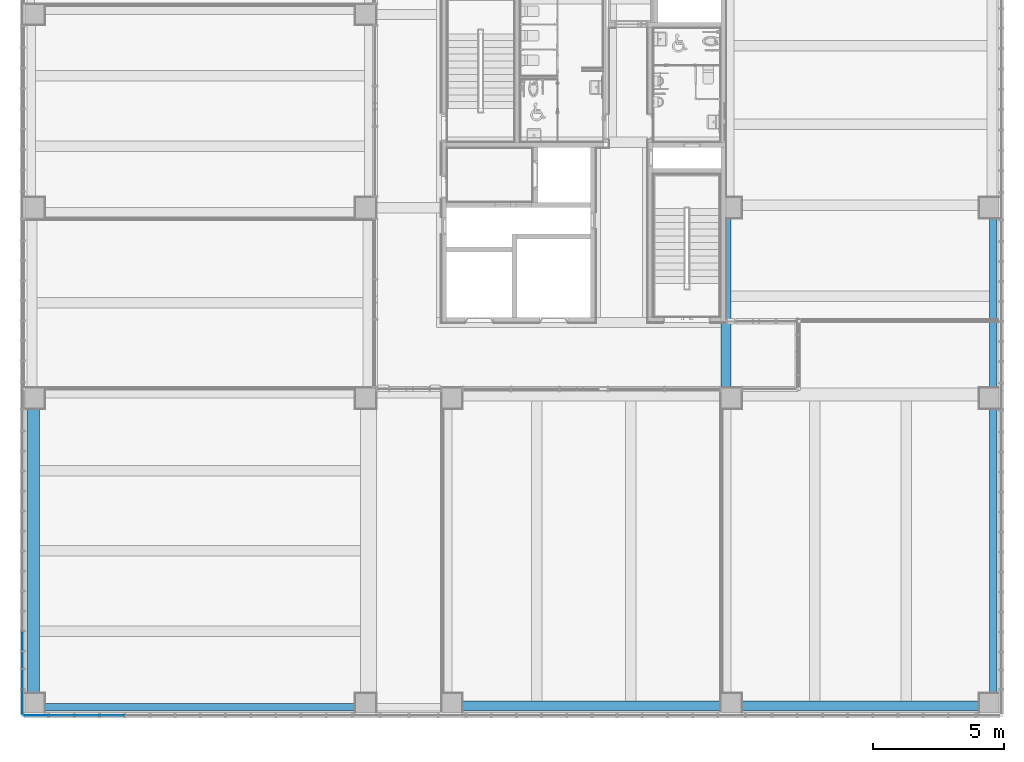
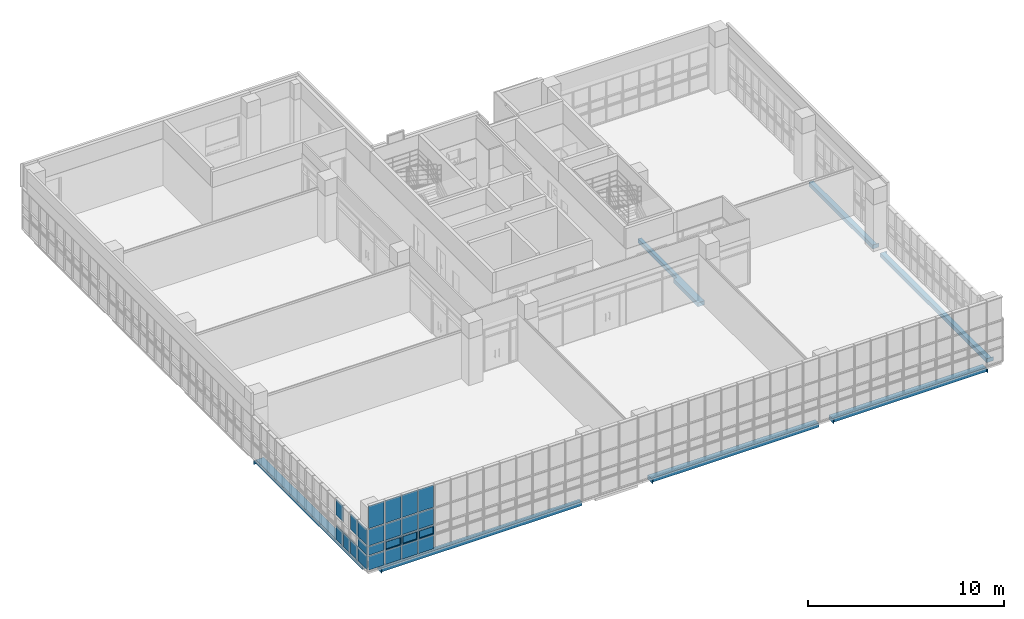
# One storey, part 28 of 76: 24 plates, 7 beams, 2 elements without a shape of their own.
"""IFC2X3 building model written with IfcOpenShell, lengths in millimetres."""

from ifc_helpers import new_model, entity, si_unit, converted_unit, derived_unit, direction, frame, origin, origin_2d_with_axis, place, context, subcontext, project, spatial, polyline, rectangle, outline, extrude, faceted_brep, source, transform, mapped, material, material_list, type_object, type_shapes, element, aggregate, save


model = new_model("IFC2X3")

# Units and contexts
model_context = context("Model", 3, precision=0.01, world=origin(), true_north=direction((6.123031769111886e-17, 1.0)))
body_context = subcontext(model_context, "Body", "Model", "MODEL_VIEW")
ifc_project = project(units=[si_unit("LENGTHUNIT", "METRE", prefix="MILLI"), si_unit("AREAUNIT", "SQUARE_METRE"), si_unit("VOLUMEUNIT", "CUBIC_METRE"), converted_unit("PLANEANGLEUNIT", "DEGREE", entity("IfcRatioMeasure", 0.017453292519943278), si_unit("PLANEANGLEUNIT", "RADIAN"), dimensions=[0, 0, 0, 0, 0, 0, 0]), si_unit("MASSUNIT", "GRAM", prefix="KILO"), derived_unit("MASSDENSITYUNIT", [(si_unit("MASSUNIT", "GRAM", prefix="KILO"), 1), (si_unit("LENGTHUNIT", "METRE"), -3)]), derived_unit("MOMENTOFINERTIAUNIT", [(si_unit("LENGTHUNIT", "METRE"), 4)]), si_unit("TIMEUNIT", "SECOND"), si_unit("FREQUENCYUNIT", "HERTZ"), si_unit("THERMODYNAMICTEMPERATUREUNIT", "DEGREE_CELSIUS"), derived_unit("THERMALTRANSMITTANCEUNIT", [(si_unit("MASSUNIT", "GRAM", prefix="KILO"), 1), (si_unit("THERMODYNAMICTEMPERATUREUNIT", "KELVIN"), -1), (si_unit("TIMEUNIT", "SECOND"), -3)]), derived_unit("VOLUMETRICFLOWRATEUNIT", [(si_unit("LENGTHUNIT", "METRE"), 3), (si_unit("TIMEUNIT", "SECOND"), -1)]), derived_unit("MASSFLOWRATEUNIT", [(si_unit("MASSUNIT", "GRAM", prefix="KILO"), 1), (si_unit("TIMEUNIT", "SECOND"), -1)]), derived_unit("ROTATIONALFREQUENCYUNIT", [(si_unit("TIMEUNIT", "SECOND"), -1)]), si_unit("ELECTRICCURRENTUNIT", "AMPERE"), si_unit("ELECTRICVOLTAGEUNIT", "VOLT"), si_unit("POWERUNIT", "WATT"), si_unit("FORCEUNIT", "NEWTON", prefix="KILO"), si_unit("ILLUMINANCEUNIT", "LUX"), si_unit("LUMINOUSFLUXUNIT", "LUMEN"), si_unit("LUMINOUSINTENSITYUNIT", "CANDELA"), derived_unit("USERDEFINED", [(si_unit("MASSUNIT", "GRAM", prefix="KILO"), -1), (si_unit("LENGTHUNIT", "METRE"), -2), (si_unit("TIMEUNIT", "SECOND"), 3), (si_unit("LUMINOUSFLUXUNIT", "LUMEN"), 1)]), derived_unit("SOUNDPOWERUNIT", [(si_unit("MASSUNIT", "GRAM", prefix="KILO"), 1), (si_unit("LENGTHUNIT", "METRE"), 2), (si_unit("TIMEUNIT", "SECOND"), -3)]), derived_unit("SOUNDPRESSUREUNIT", [(si_unit("MASSUNIT", "GRAM", prefix="KILO"), 1), (si_unit("LENGTHUNIT", "METRE"), -1), (si_unit("TIMEUNIT", "SECOND"), -2)]), derived_unit("LINEARVELOCITYUNIT", [(si_unit("LENGTHUNIT", "METRE"), 1), (si_unit("TIMEUNIT", "SECOND"), -1)]), si_unit("PRESSUREUNIT", "PASCAL"), derived_unit("USERDEFINED", [(si_unit("LENGTHUNIT", "METRE"), -2), (si_unit("MASSUNIT", "GRAM", prefix="KILO"), 1), (si_unit("TIMEUNIT", "SECOND"), -2)]), derived_unit("LINEARFORCEUNIT", [(si_unit("MASSUNIT", "GRAM", prefix="KILO"), 1), (si_unit("LENGTHUNIT", "METRE"), 1), (si_unit("TIMEUNIT", "SECOND"), -2), (si_unit("LENGTHUNIT", "METRE"), -1)]), derived_unit("PLANARFORCEUNIT", [(si_unit("MASSUNIT", "GRAM", prefix="KILO"), 1), (si_unit("LENGTHUNIT", "METRE"), 1), (si_unit("TIMEUNIT", "SECOND"), -2), (si_unit("LENGTHUNIT", "METRE"), -2)])], contexts=[model_context])

# Site, building, storey
site_placement = place(None, frame((-14167.972527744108, -657.2125860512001, 0.0)))
site = spatial("IfcSite", under=ifc_project, at=site_placement, Name="Default", CompositionType="ELEMENT")
building_placement = place(site_placement, origin())
building = spatial("IfcBuilding", under=site, at=building_placement, Name="Sample Building", CompositionType="ELEMENT")
storey_placement = place(building_placement, frame((0.0, 0.0, 9300.0)))
storey = spatial("IfcBuildingStorey", under=building, at=storey_placement, Name="지상 3층", CompositionType="ELEMENT", Elevation=9300.000000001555)

# Beams
ifc_material_1 = material(Name="KBIMS-콘크리트")
beam_type_1 = type_object("IfcBeamType", Name="BM111-철근콘크리트구조 보:BM110-철근 콘크리트구조 보_400 x 400_2-10G7", PredefinedType="NOTDEFINED")
beam_1_placement = place(storey_placement, frame((14867.955105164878, 557.2126041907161, -400.0), z_axis=(0.0, 0.0, 1.0), x_axis=(-1.0, 0.0, 0.0)))
element("IfcBeam", 1, at=beam_1_placement, inside=storey, type_object=beam_type_1, material=ifc_material_1, Name="BM111-철근콘크리트구조 보:BM110-철근 콘크리트구조 보_400 x 400_2-10G7", ObjectType="BM111-철근콘크리트구조 보:BM110-철근 콘크리트구조 보_400 x 400_2-10G7", context=body_context, shape_type="Brep", body=[
    faceted_brep([(0.0, 0.0, 250.0), (0.0, 0.0, 0.0), (-18.017349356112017, 0.0, 0.0), (-18.017349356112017, 0.0, 250.0), (0.0, -400.0, 0.0), (-11900.000036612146, -400.0, 0.0), (-11900.000036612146, -124.99969094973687, 0.0), (-18.017349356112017, -124.99969094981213, 0.0), (0.0, -400.0, 250.0), (-11900.000036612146, -400.0, 250.0), (-11900.000036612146, -124.99969094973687, 250.0), (-18.017349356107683, -124.99969094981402, 250.0)], [[[0, 1, 2, 3]], [[1, 4, 5, 6, 7, 2]], [[5, 4, 8, 9]], [[4, 1, 0, 8]], [[5, 9, 10, 6]], [[9, 8, 0, 3, 11, 10]], [[11, 7, 6, 10]], [[7, 11, 3, 2]]]),
])
beam_type_2 = type_object("IfcBeamType", Name="BM111-철근콘크리트구조 보:BM110-철근 콘크리트구조 보_500 x 400_2-10G9", PredefinedType="NOTDEFINED")
beam_2_placement = place(storey_placement, frame((30867.955114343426, 557.212390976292, -400.0)))
element("IfcBeam", 2, at=beam_2_placement, inside=storey, type_object=beam_type_2, material=ifc_material_1, Name="BM111-철근콘크리트구조 보:BM110-철근 콘크리트구조 보_500 x 400_2-10G9", ObjectType="BM111-철근콘크리트구조 보:BM110-철근 콘크리트구조 보_500 x 400_2-10G9", context=body_context, shape_type="Brep", body=[
    faceted_brep([(0.0, 0.0, 250.0), (0.0, 0.0, 0.0), (18.01734935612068, 0.0, 0.0), (18.01734935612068, 0.0, 250.0), (0.0, 500.0, 0.0), (2650.0087635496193, 500.0, 0.0), (3050.0087635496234, 500.0, 0.0), (6250.008763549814, 500.0, 0.0), (6650.0087635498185, 500.0, 0.0), (9900.000027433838, 500.0, 0.0), (9900.000027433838, 124.99990416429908, 0.0), (18.01734935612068, 124.99990416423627, 0.0), (0.0, 500.0, 250.0), (2650.0087635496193, 500.0, 250.0), (3050.0087635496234, 500.0, 250.0), (6250.008763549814, 500.0, 250.0), (6650.0087635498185, 500.0, 250.0), (9900.000027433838, 500.0, 250.0), (9900.000027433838, 124.99990416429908, 250.0), (18.01734935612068, 124.999904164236, 250.0)], [[[0, 1, 2, 3]], [[1, 4, 5, 6, 7, 8, 9, 10, 11, 2]], [[9, 8, 7, 6, 5, 4, 12, 13, 14, 15, 16, 17]], [[4, 1, 0, 12]], [[9, 17, 18, 10]], [[17, 16, 15, 14, 13, 12, 0, 3, 19, 18]], [[19, 11, 10, 18]], [[11, 19, 3, 2]]]),
])
beam_3_placement = place(storey_placement, frame((41567.95514177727, 557.2123909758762, -400.0), z_axis=(0.0, 0.0, 1.0), x_axis=(-1.0, 0.0, 0.0)))
element("IfcBeam", 3, at=beam_3_placement, inside=storey, type_object=beam_type_2, material=ifc_material_1, Name="BM111-철근콘크리트구조 보:BM110-철근 콘크리트구조 보_500 x 400_2-10G9", ObjectType="BM111-철근콘크리트구조 보:BM110-철근 콘크리트구조 보_500 x 400_2-10G9", context=body_context, shape_type="Brep", body=[
    faceted_brep([(0.0, 0.0, 250.0), (0.0, 0.0, 0.0), (-18.017349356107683, 0.0, 0.0), (-18.017349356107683, 0.0, 250.0), (0.0, -500.0, 0.0), (-2599.991307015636, -500.0, 0.0), (-2999.9913070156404, -500.0, 0.0), (-6099.991307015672, -500.0, 0.0), (-6499.991307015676, -500.0, 0.0), (-9100.008696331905, -500.0, 0.0), (-9100.008696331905, 0.0, 0.0), (-9082.02604568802, 0.0, 0.0), (-9082.02604568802, -124.99990416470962, 0.0), (-18.017349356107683, -124.99990416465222, 0.0), (0.0, -500.0, 250.0), (-2599.991307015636, -500.0, 250.0), (-2999.9913070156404, -500.0, 250.0), (-6099.991307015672, -500.0, 250.0), (-6499.991307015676, -500.0, 250.0), (-9100.008696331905, -500.0, 250.0), (-9100.008696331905, 0.0, 250.0), (-18.017349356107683, -124.99990416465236, 250.0), (-9082.02604568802, -124.9999041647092, 250.0), (-9082.02604568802, 0.0, 250.0)], [[[0, 1, 2, 3]], [[1, 4, 5, 6, 7, 8, 9, 10, 11, 12, 13, 2]], [[9, 8, 7, 6, 5, 4, 14, 15, 16, 17, 18, 19]], [[4, 1, 0, 14]], [[10, 9, 19, 20]], [[19, 18, 17, 16, 15, 14, 0, 3, 21, 22, 23, 20]], [[12, 22, 21, 13]], [[22, 12, 11, 23]], [[13, 21, 3, 2]], [[10, 20, 23, 11]]]),
])
beam_type_3 = type_object("IfcBeamType", Name="BM111-철근콘크리트구조 보:BM110-철근 콘크리트구조 보_600 x 400_2-10G12", PredefinedType="NOTDEFINED")
beam_4_placement = place(storey_placement, frame((14067.955221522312, 1357.2121951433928, -400.0), z_axis=(0.0, 0.0, 1.0), x_axis=(0.0, -1.0, 0.0)))
element("IfcBeam", 4, at=beam_4_placement, inside=storey, type_object=beam_type_3, material=ifc_material_1, Name="BM111-철근콘크리트구조 보:BM110-철근 콘크리트구조 보_600 x 400_2-10G12", ObjectType="BM111-철근콘크리트구조 보:BM110-철근 콘크리트구조 보_600 x 400_2-10G12", context=body_context, shape_type="Brep", body=[
    faceted_brep([(0.0, 600.0, 0.0), (-2175.0002837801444, 600.0, 0.0), (-2575.000283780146, 600.0, 0.0), (-5250.000283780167, 600.0, 0.0), (-5650.0002837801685, 600.0, 0.0), (-8325.000283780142, 600.0, 0.0), (-8725.000283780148, 600.0, 0.0), (-10900.000421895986, 600.0, 0.0), (-10900.000421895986, 600.0, 250.0), (-8725.000283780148, 600.0, 250.0), (-8325.000283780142, 600.0, 250.0), (-5650.0002837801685, 600.0, 250.0), (-5250.000283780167, 600.0, 250.0), (-2575.0002837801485, 600.0, 250.0), (-2175.000283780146, 600.0, 250.0), (0.0, 600.0, 250.0), (-10900.000421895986, 0.0, 0.0), (0.0, 125.01734935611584, 0.0), (-10882.000112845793, 125.01734935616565, 0.0), (-10882.000112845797, 0.0, 0.0), (-10900.000421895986, 0.0, 250.0), (-10882.000112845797, 0.0, 250.0), (0.0, 125.01734935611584, 250.0), (-10882.000112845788, 125.01734935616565, 250.0)], [[[0, 1, 2, 3, 4, 5, 6, 7, 8, 9, 10, 11, 12, 13, 14, 15]], [[16, 7, 6, 5, 4, 3, 2, 1, 0, 17, 18, 19]], [[20, 16, 19, 21]], [[0, 15, 22, 17]], [[7, 16, 20, 8]], [[15, 14, 13, 12, 11, 10, 9, 8, 20, 21, 23, 22]], [[23, 18, 17, 22]], [[18, 23, 21, 19]]]),
])
beam_type_4 = type_object("IfcBeamType", Name="BM111-철근콘크리트구조 보:BM110-철근 콘크리트구조 보_400 x 400_2-10G6", PredefinedType="NOTDEFINED")
beam_5_placement = place(storey_placement, frame((51067.946479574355, 1357.212617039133, -400.0), z_axis=(0.0, 0.0, 1.0), x_axis=(0.0, -1.0, 0.0)))
element("IfcBeam", 5, at=beam_5_placement, inside=storey, type_object=beam_type_4, material=ifc_material_1, Name="BM111-철근콘크리트구조 보:BM110-철근 콘크리트구조 보_400 x 400_2-10G6", ObjectType="BM111-철근콘크리트구조 보:BM110-철근 콘크리트구조 보_400 x 400_2-10G6", context=body_context, shape_type="Brep", body=[
    faceted_brep([(0.0, 400.0, 250.0), (0.0, 400.0, 0.0), (-17.999690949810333, 400.0, 0.0), (-17.999690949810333, 400.0, 250.0), (0.0, 0.0, 0.0), (-10900.000421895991, 0.0, 0.0), (-10900.000421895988, 400.0, 0.0), (-10882.000112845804, 400.0, 0.0), (-10882.000112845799, 275.0173493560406, 0.0), (-17.999690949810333, 275.0173493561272, 0.0), (0.0, 0.0, 250.0), (-10900.000421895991, 0.0, 250.0), (-10900.000421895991, 400.0, 250.0), (-17.999690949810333, 275.01734935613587, 250.0), (-10882.000112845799, 275.01734935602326, 250.0), (-10882.000112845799, 400.0, 250.0)], [[[0, 1, 2, 3]], [[1, 4, 5, 6, 7, 8, 9, 2]], [[5, 4, 10, 11]], [[4, 1, 0, 10]], [[6, 5, 11, 12]], [[11, 10, 0, 3, 13, 14, 15, 12]], [[8, 14, 13, 9]], [[9, 13, 3, 2]], [[6, 12, 15, 7]], [[14, 8, 7, 15]]]),
])
beam_type_5 = type_object("IfcBeamType", Name="BM111-철근콘크리트구조 보:BM110-철근 콘크리트구조 보_400 x 400_2-10G4", PredefinedType="BEAM", material=ifc_material_1)
beam_6_placement = place(storey_placement, frame((40767.95514177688, 13057.212604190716, -400.0), z_axis=(0.0, 0.0, 1.0), x_axis=(0.0, 1.0, 0.0)))
element("IfcBeam", 6, at=beam_6_placement, inside=storey, type_object=beam_type_5, material=ifc_material_1, Name="BM111-철근콘크리트구조 보:BM110-철근 콘크리트구조 보_400 x 400_2-10G4", ObjectType="BM111-철근콘크리트구조 보:BM110-철근 콘크리트구조 보_400 x 400_2-10G4", context=body_context, shape_type="Brep", body=[
    faceted_brep([(1.2849108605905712e-05, -400.0, 0.0), (3299.999848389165, -400.0, 0.0), (3699.999848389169, -400.0, 0.0), (6500.0, -400.0, 0.0), (6500.0, -400.0, 250.0), (3699.999848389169, -400.0, 250.0), (3299.999848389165, -400.0, 250.0), (1.2849108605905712e-05, -400.0, 250.0), (0.0, 0.0, 0.0), (2300.0, 0.0, 0.0), (2499.9996909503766, 0.0, 0.0), (2499.9996909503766, -200.00865637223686, 0.0), (6500.0, -200.00865637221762, 0.0), (0.0, 0.0, 250.0), (2300.0, 0.0, 250.0), (2499.9996909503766, 0.0, 250.0), (6500.0, -200.00865637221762, 250.0), (0.0, -400.0, 250.0), (2499.9996909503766, -200.00865637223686, 250.0)], [[[0, 1, 2, 3, 4, 5, 6, 7]], [[3, 2, 1, 0, 8, 9, 10, 11, 12]], [[8, 13, 14, 15, 10, 9]], [[4, 3, 12, 16]], [[8, 0, 17, 13]], [[7, 6, 5, 4, 16, 18, 15, 14, 13]], [[11, 18, 16, 12]], [[18, 11, 10, 15]]]),
])
beam_7_placement = place(storey_placement, frame((51067.955221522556, 13057.213038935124, -400.0), z_axis=(0.0, 0.0, 1.0), x_axis=(0.0, 1.0, 0.0)))
element("IfcBeam", 7, at=beam_7_placement, inside=storey, type_object=beam_type_5, material=ifc_material_1, Name="BM111-철근콘크리트구조 보:BM110-철근 콘크리트구조 보_400 x 400_2-10G4", ObjectType="BM111-철근콘크리트구조 보:BM110-철근 콘크리트구조 보_400 x 400_2-10G4", context=body_context, shape_type="Brep", body=[
    faceted_brep([(0.0, -400.0, 250.0), (0.0, -400.0, 0.0), (17.9996909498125, -400.0, 0.0), (17.9996909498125, -400.0, 250.0), (0.0, 0.0, 0.0), (3299.9994136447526, 0.0, 0.0), (3699.999413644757, 0.0, 0.0), (6499.999578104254, 0.0, 0.0), (6499.999578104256, -275.00860740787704, 0.0), (17.9996909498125, -275.00860740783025, 0.0), (0.0, 0.0, 250.0), (3299.9994136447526, 0.0, 250.0), (3699.999413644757, 0.0, 250.0), (6499.999578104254, 0.0, 250.0), (6499.999578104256, -275.00860740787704, 250.0), (17.9996909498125, -275.0086074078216, 250.0)], [[[0, 1, 2, 3]], [[1, 4, 5, 6, 7, 8, 9, 2]], [[7, 6, 5, 4, 10, 11, 12, 13]], [[4, 1, 0, 10]], [[7, 13, 14, 8]], [[13, 12, 11, 10, 0, 3, 15, 14]], [[15, 9, 8, 14]], [[9, 15, 3, 2]]]),
])

# Curtain wall, plates
curtain_wall_type = type_object("IfcCurtainWallType", Name="커튼월:CW112-스테인리스 스틸 커튼월", PredefinedType="NOTDEFINED")
curtain_wall_1_placement = place(storey_placement, frame((0.0, 0.0, -9300.0)))
curtain_wall_1 = element("IfcCurtainWall", 8, at=curtain_wall_1_placement, inside=storey, type_object=curtain_wall_type, Name="커튼월:CW112-스테인리스 스틸 커튼월", ObjectType="커튼월:CW112-스테인리스 스틸 커튼월")
ifc_material_2 = material(Name="KBIMS-로이유리(코팅)")
plate_type_1 = type_object("IfcPlateType", Name="CW300-THK24.Low-e coating glass:CW300-THK24.Low-e coating glass", PredefinedType="CURTAIN_PANEL", material=ifc_material_2)
shared_shape_1 = source(origin(), body_context, "Body", "SweptSolid", [
    extrude(rectangle(XDim=715.9999999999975, YDim=24.000000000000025, at=origin_2d_with_axis()), frame((0.0, 0.0, 0.0), z_axis=(0.0, 0.0, 1.0), x_axis=(-1.0, 0.0, 0.0)), (0.0, 0.0, 1.0), 875.0000000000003),
])
type_shapes(plate_type_1, [shared_shape_1])
plate_1_placement = place(curtain_wall_1_placement, frame((14018.587904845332, 3352.817707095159, 9430.0), z_axis=(0.0, 0.0, 1.0), x_axis=(0.0, -1.0, 0.0)))
plate_1 = element("IfcPlate", 9, at=plate_1_placement, type_object=plate_type_1, material=ifc_material_2, Name="CW300-THK24.Low-e coating glass:CW300-THK24.Low-e coating glass", ObjectType="CW300-THK24.Low-e coating glass:CW300-THK24.Low-e coating glass", context=body_context, shape_type="MappedRepresentation", body=[
    mapped(shared_shape_1, transform((0.0, 0.0, 0.0), scale=1.0)),
])
plate_type_2 = type_object("IfcPlateType", Name="CW300-THK24.Low-e coating glass:CW300-THK24.Low-e coating glass", PredefinedType="CURTAIN_PANEL", material=ifc_material_2)
shared_shape_2 = source(origin(), body_context, "Body", "SweptSolid", [
    extrude(rectangle(XDim=642.0000000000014, YDim=24.000000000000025, at=origin_2d_with_axis()), frame((0.0, 0.0, 0.0), z_axis=(0.0, 0.0, 1.0), x_axis=(-1.0, 0.0, 0.0)), (0.0, 0.0, 1.0), 875.0000000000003),
])
type_shapes(plate_type_2, [shared_shape_2])
plate_2_placement = place(curtain_wall_1_placement, frame((14018.587904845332, 2623.81770709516, 9430.0), z_axis=(0.0, 0.0, 1.0), x_axis=(0.0, -1.0, 0.0)))
plate_2 = element("IfcPlate", 10, at=plate_2_placement, type_object=plate_type_2, material=ifc_material_2, Name="CW300-THK24.Low-e coating glass:CW300-THK24.Low-e coating glass", ObjectType="CW300-THK24.Low-e coating glass:CW300-THK24.Low-e coating glass", context=body_context, shape_type="MappedRepresentation", body=[
    mapped(shared_shape_2, transform((0.0, 0.0, 0.0), scale=1.0)),
])
plate_type_3 = type_object("IfcPlateType", Name="CW300-THK24.Low-e coating glass:CW300-THK24.Low-e coating glass", PredefinedType="CURTAIN_PANEL", material=ifc_material_2)
shared_shape_3 = source(origin(), body_context, "Body", "SweptSolid", [
    extrude(rectangle(XDim=733.0000000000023, YDim=24.000000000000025, at=origin_2d_with_axis()), frame((0.0, 0.0, 0.0), z_axis=(0.0, 0.0, 1.0), x_axis=(-1.0, 0.0, 0.0)), (0.0, 0.0, 1.0), 875.0000000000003),
])
type_shapes(plate_type_3, [shared_shape_3])
plate_3_placement = place(curtain_wall_1_placement, frame((14018.587904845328, 1886.3177070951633, 9430.0), z_axis=(0.0, 0.0, 1.0), x_axis=(0.0, -1.0, 0.0)))
plate_3 = element("IfcPlate", 11, at=plate_3_placement, type_object=plate_type_3, material=ifc_material_2, Name="CW300-THK24.Low-e coating glass:CW300-THK24.Low-e coating glass", ObjectType="CW300-THK24.Low-e coating glass:CW300-THK24.Low-e coating glass", context=body_context, shape_type="MappedRepresentation", body=[
    mapped(shared_shape_3, transform((0.0, 0.0, 0.0), scale=1.0)),
])
plate_type_4 = type_object("IfcPlateType", Name="CW300-THK24.Low-e coating glass:CW300-THK24.Low-e coating glass", PredefinedType="CURTAIN_PANEL", material=ifc_material_2)
shared_shape_4 = source(origin(), body_context, "Body", "SweptSolid", [
    extrude(rectangle(XDim=912.3445148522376, YDim=24.000000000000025, at=origin_2d_with_axis()), frame((0.0, 0.0, 0.0), z_axis=(0.0, 0.0, 1.0), x_axis=(-1.0, 0.0, 0.0)), (0.0, 0.0, 1.0), 875.0000000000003),
])
type_shapes(plate_type_4, [shared_shape_4])
plate_4_placement = place(curtain_wall_1_placement, frame((14018.587904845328, 1013.6454496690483, 9430.0), z_axis=(0.0, 0.0, 1.0), x_axis=(0.0, -1.0, 0.0)))
plate_4 = element("IfcPlate", 12, at=plate_4_placement, type_object=plate_type_4, material=ifc_material_2, Name="CW300-THK24.Low-e coating glass:CW300-THK24.Low-e coating glass", ObjectType="CW300-THK24.Low-e coating glass:CW300-THK24.Low-e coating glass", context=body_context, shape_type="MappedRepresentation", body=[
    mapped(shared_shape_4, transform((0.0, 0.0, 0.0), scale=1.0)),
])
plate_type_5 = type_object("IfcPlateType", Name="CW300-THK24.Low-e coating glass:CW300-THK24.Low-e coating glass", PredefinedType="CURTAIN_PANEL", material=ifc_material_2)
shared_shape_5 = source(origin(), body_context, "Body", "SweptSolid", [
    extrude(rectangle(XDim=912.3445148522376, YDim=24.000000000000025, at=origin_2d_with_axis()), frame((0.0, 0.0, 0.0), z_axis=(0.0, 0.0, 1.0), x_axis=(-1.0, 0.0, 0.0)), (0.0, 0.0, 1.0), 549.9999999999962),
])
type_shapes(plate_type_5, [shared_shape_5])
plate_5_placement = place(curtain_wall_1_placement, frame((14018.587904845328, 1013.6454496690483, 10355.0), z_axis=(0.0, 0.0, 1.0), x_axis=(0.0, -1.0, 0.0)))
plate_5 = element("IfcPlate", 13, at=plate_5_placement, type_object=plate_type_5, material=ifc_material_2, Name="CW300-THK24.Low-e coating glass:CW300-THK24.Low-e coating glass", ObjectType="CW300-THK24.Low-e coating glass:CW300-THK24.Low-e coating glass", context=body_context, shape_type="MappedRepresentation", body=[
    mapped(shared_shape_5, transform((0.0, 0.0, 0.0), scale=1.0)),
])
plate_type_6 = type_object("IfcPlateType", Name="CW300-THK24.Low-e coating glass:CW300-THK24.Low-e coating glass", PredefinedType="CURTAIN_PANEL", material=ifc_material_2)
shared_shape_6 = source(origin(), body_context, "Body", "SweptSolid", [
    extrude(rectangle(XDim=715.9999999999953, YDim=24.000000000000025, at=origin_2d_with_axis()), frame((0.0, 0.0, 0.0), z_axis=(0.0, 0.0, 1.0), x_axis=(-1.0, 0.0, 0.0)), (0.0, 0.0, 1.0), 995.0000000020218),
])
type_shapes(plate_type_6, [shared_shape_6])
plate_6_placement = place(curtain_wall_1_placement, frame((14018.587904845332, 3352.817707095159, 10955.0), z_axis=(0.0, 0.0, 1.0), x_axis=(0.0, -1.0, 0.0)))
plate_6 = element("IfcPlate", 14, at=plate_6_placement, type_object=plate_type_6, material=ifc_material_2, Name="CW300-THK24.Low-e coating glass:CW300-THK24.Low-e coating glass", ObjectType="CW300-THK24.Low-e coating glass:CW300-THK24.Low-e coating glass", context=body_context, shape_type="MappedRepresentation", body=[
    mapped(shared_shape_6, transform((0.0, 0.0, 0.0), scale=1.0)),
])
plate_type_7 = type_object("IfcPlateType", Name="CW300-THK24.Low-e coating glass:CW300-THK24.Low-e coating glass", PredefinedType="CURTAIN_PANEL", material=ifc_material_2)
shared_shape_7 = source(origin(), body_context, "Body", "SweptSolid", [
    extrude(rectangle(XDim=732.999999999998, YDim=24.000000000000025, at=origin_2d_with_axis()), frame((0.0, 0.0, 0.0), z_axis=(0.0, 0.0, 1.0), x_axis=(-1.0, 0.0, 0.0)), (0.0, 0.0, 1.0), 995.0000000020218),
])
type_shapes(plate_type_7, [shared_shape_7])
plate_7_placement = place(curtain_wall_1_placement, frame((14018.587904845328, 1886.3177070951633, 10955.0), z_axis=(0.0, 0.0, 1.0), x_axis=(0.0, -1.0, 0.0)))
plate_7 = element("IfcPlate", 15, at=plate_7_placement, type_object=plate_type_7, material=ifc_material_2, Name="CW300-THK24.Low-e coating glass:CW300-THK24.Low-e coating glass", ObjectType="CW300-THK24.Low-e coating glass:CW300-THK24.Low-e coating glass", context=body_context, shape_type="MappedRepresentation", body=[
    mapped(shared_shape_7, transform((0.0, 0.0, 0.0), scale=1.0)),
])
plate_type_8 = type_object("IfcPlateType", Name="CW300-THK24.Low-e coating glass:CW300-THK24.Low-e coating glass", PredefinedType="CURTAIN_PANEL", material=ifc_material_2)
shared_shape_8 = source(origin(), body_context, "Body", "SweptSolid", [
    extrude(rectangle(XDim=912.3445148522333, YDim=24.000000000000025, at=origin_2d_with_axis()), frame((0.0, 0.0, 0.0), z_axis=(0.0, 0.0, 1.0), x_axis=(-1.0, 0.0, 0.0)), (0.0, 0.0, 1.0), 995.0000000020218),
])
type_shapes(plate_type_8, [shared_shape_8])
plate_8_placement = place(curtain_wall_1_placement, frame((14018.587904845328, 1013.6454496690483, 10955.0), z_axis=(0.0, 0.0, 1.0), x_axis=(0.0, -1.0, 0.0)))
plate_8 = element("IfcPlate", 16, at=plate_8_placement, type_object=plate_type_8, material=ifc_material_2, Name="CW300-THK24.Low-e coating glass:CW300-THK24.Low-e coating glass", ObjectType="CW300-THK24.Low-e coating glass:CW300-THK24.Low-e coating glass", context=body_context, shape_type="MappedRepresentation", body=[
    mapped(shared_shape_8, transform((0.0, 0.0, 0.0), scale=1.0)),
])
aggregate(curtain_wall_1, [plate_1, plate_2, plate_3, plate_4, plate_5, plate_6, plate_7, plate_8])

curtain_wall_2_placement = place(storey_placement, frame((0.0, 0.0, -9300.0)))
curtain_wall_2 = element("IfcCurtainWall", 17, at=curtain_wall_2_placement, inside=storey, type_object=curtain_wall_type, Name="커튼월:CW112-스테인리스 스틸 커튼월", ObjectType="커튼월:CW112-스테인리스 스틸 커튼월")
plate_type_9 = type_object("IfcPlateType", Name="CW300-THK24.Low-e coating glass:CW300-THK24.Low-e coating glass", PredefinedType="CURTAIN_PANEL", material=ifc_material_2)
shared_shape_9 = source(origin(), body_context, "Body", "SweptSolid", [
    extrude(rectangle(XDim=912.1922411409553, YDim=24.000000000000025, at=origin_2d_with_axis()), frame((0.0, 0.0, 0.0), z_axis=(0.0, 0.0, 1.0), x_axis=(-1.0, 0.0, 0.0)), (0.0, 0.0, 1.0), 875.0000000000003),
])
type_shapes(plate_type_9, [shared_shape_9])
plate_9_placement = place(curtain_wall_2_placement, frame((14524.059949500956, 507.2122951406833, 9430.0)))
plate_9 = element("IfcPlate", 18, at=plate_9_placement, type_object=plate_type_9, material=ifc_material_2, Name="CW300-THK24.Low-e coating glass:CW300-THK24.Low-e coating glass", ObjectType="CW300-THK24.Low-e coating glass:CW300-THK24.Low-e coating glass", context=body_context, shape_type="MappedRepresentation", body=[
    mapped(shared_shape_9, transform((0.0, 0.0, 0.0), scale=1.0)),
])
plate_type_10 = type_object("IfcPlateType", Name="CW300-THK24.Low-e coating glass:CW300-THK24.Low-e coating glass", PredefinedType="CURTAIN_PANEL", material=ifc_material_2)
shared_shape_10 = source(origin(), body_context, "Body", "SweptSolid", [
    extrude(rectangle(XDim=944.9999999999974, YDim=24.000000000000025, at=origin_2d_with_axis()), frame((0.0, 0.0, 0.0), z_axis=(0.0, 0.0, 1.0), x_axis=(-1.0, 0.0, 0.0)), (0.0, 0.0, 1.0), 875.0000000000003),
])
type_shapes(plate_type_10, [shared_shape_10])
plate_10_placement = place(curtain_wall_2_placement, frame((15502.656070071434, 507.2122951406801, 9430.0)))
plate_10 = element("IfcPlate", 19, at=plate_10_placement, type_object=plate_type_10, material=ifc_material_2, Name="CW300-THK24.Low-e coating glass:CW300-THK24.Low-e coating glass", ObjectType="CW300-THK24.Low-e coating glass:CW300-THK24.Low-e coating glass", context=body_context, shape_type="MappedRepresentation", body=[
    mapped(shared_shape_10, transform((0.0, 0.0, 0.0), scale=1.0)),
])
plate_type_11 = type_object("IfcPlateType", Name="CW300-THK24.Low-e coating glass:CW300-THK24.Low-e coating glass", PredefinedType="CURTAIN_PANEL", material=ifc_material_2)
shared_shape_11 = source(origin(), body_context, "Body", "SweptSolid", [
    extrude(rectangle(XDim=914.9999999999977, YDim=24.000000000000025, at=origin_2d_with_axis()), frame((0.0, 0.0, 0.0), z_axis=(0.0, 0.0, 1.0), x_axis=(-1.0, 0.0, 0.0)), (0.0, 0.0, 1.0), 875.0000000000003),
])
type_shapes(plate_type_11, [shared_shape_11])
plate_11_placement = place(curtain_wall_2_placement, frame((16482.656070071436, 507.212295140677, 9430.0)))
plate_11 = element("IfcPlate", 20, at=plate_11_placement, type_object=plate_type_11, material=ifc_material_2, Name="CW300-THK24.Low-e coating glass:CW300-THK24.Low-e coating glass", ObjectType="CW300-THK24.Low-e coating glass:CW300-THK24.Low-e coating glass", context=body_context, shape_type="MappedRepresentation", body=[
    mapped(shared_shape_11, transform((0.0, 0.0, 0.0), scale=1.0)),
])
plate_12_placement = place(curtain_wall_2_placement, frame((17447.656070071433, 507.2122951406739, 9430.0)))
plate_12 = element("IfcPlate", 21, at=plate_12_placement, type_object=plate_type_11, material=ifc_material_2, Name="CW300-THK24.Low-e coating glass:CW300-THK24.Low-e coating glass", ObjectType="CW300-THK24.Low-e coating glass:CW300-THK24.Low-e coating glass", context=body_context, shape_type="MappedRepresentation", body=[
    mapped(shared_shape_11, transform((0.0, 0.0, 0.0), scale=1.0)),
])
plate_type_12 = type_object("IfcPlateType", Name="CW300-THK24.Low-e coating glass:CW300-THK24.Low-e coating glass", PredefinedType="CURTAIN_PANEL", material=ifc_material_2)
shared_shape_12 = source(origin(), body_context, "Body", "SweptSolid", [
    extrude(rectangle(XDim=912.1922411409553, YDim=24.000000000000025, at=origin_2d_with_axis()), frame((0.0, 0.0, 0.0), z_axis=(0.0, 0.0, 1.0), x_axis=(-1.0, 0.0, 0.0)), (0.0, 0.0, 1.0), 549.9999999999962),
])
type_shapes(plate_type_12, [shared_shape_12])
plate_13_placement = place(curtain_wall_2_placement, frame((14524.059949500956, 507.2122951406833, 10355.0)))
plate_13 = element("IfcPlate", 22, at=plate_13_placement, type_object=plate_type_12, material=ifc_material_2, Name="CW300-THK24.Low-e coating glass:CW300-THK24.Low-e coating glass", ObjectType="CW300-THK24.Low-e coating glass:CW300-THK24.Low-e coating glass", context=body_context, shape_type="MappedRepresentation", body=[
    mapped(shared_shape_12, transform((0.0, 0.0, 0.0), scale=1.0)),
])
ifc_material_3 = material(Name="KBIMS-유리")
ifc_material_4 = material(Name="KBIMS-알루미늄")
ifc_material_list_1 = material_list([ifc_material_3, ifc_material_4])
ifc_material_list_2 = material_list([ifc_material_3, ifc_material_4])
plate_type_13 = type_object("IfcPlateType", Name="CW410-프로젝트 창:CW410-프로젝트 창 (하부개폐)", PredefinedType="CURTAIN_PANEL", material=ifc_material_list_2)
shared_shape_13 = source(origin(), body_context, "Body", "SweptSolid", [
    extrude(rectangle(XDim=845.0000000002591, YDim=23.999999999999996, at=origin_2d_with_axis()), frame((0.0, -0.04999999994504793, 50.0), z_axis=(0.0, 0.0, 1.0), x_axis=(-1.0, 0.0, 0.0)), (0.0, 0.0, 1.0), 450.0000000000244),
    extrude(outline(polyline([(-472.4999999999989, -275.0), (472.4999999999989, -275.0), (472.4999999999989, 275.0), (-472.4999999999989, 275.0), (-472.4999999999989, -275.0)]), holes=[polyline([(-422.50000000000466, -225.0), (-422.5000000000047, 225.0), (422.5000000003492, 225.0), (422.50000000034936, -225.0), (-422.50000000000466, -225.0)])]), frame((0.0, -50.04999999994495, 275.0), z_axis=(0.0, 1.0, 0.0), x_axis=(1.0, 0.0, 0.0)), (0.0, 0.0, 1.0), 99.99999999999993),
])
type_shapes(plate_type_13, [shared_shape_13])
plate_14_placement = place(curtain_wall_2_placement, frame((15502.656070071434, 507.2122951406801, 10355.0)))
plate_14 = element("IfcPlate", 23, at=plate_14_placement, type_object=plate_type_13, material=ifc_material_list_1, Name="CW410-프로젝트 창:CW410-프로젝트 창 (하부개폐)", ObjectType="CW410-프로젝트 창:CW410-프로젝트 창 (하부개폐)", context=body_context, shape_type="MappedRepresentation", body=[
    mapped(shared_shape_13, transform((0.0, 0.0, 0.0), scale=1.0)),
])
ifc_material_list_3 = material_list([ifc_material_3, ifc_material_4])
ifc_material_list_4 = material_list([ifc_material_3, ifc_material_4])
plate_type_14 = type_object("IfcPlateType", Name="CW410-프로젝트 창:CW410-프로젝트 창 (하부개폐)", PredefinedType="CURTAIN_PANEL", material=ifc_material_list_4)
shared_shape_14 = source(origin(), body_context, "Body", "SweptSolid", [
    extrude(rectangle(XDim=815.0000000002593, YDim=23.999999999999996, at=origin_2d_with_axis()), frame((0.0, -0.04999999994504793, 50.0), z_axis=(0.0, 0.0, 1.0), x_axis=(-1.0, 0.0, 0.0)), (0.0, 0.0, 1.0), 450.0000000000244),
    extrude(outline(polyline([(-457.4999999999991, -275.0), (457.4999999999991, -275.0), (457.4999999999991, 275.0), (-457.4999999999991, 275.0), (-457.4999999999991, -275.0)]), holes=[polyline([(-407.50000000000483, -225.0), (-407.5000000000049, 225.0), (407.50000000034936, 225.0), (407.50000000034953, -225.0), (-407.50000000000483, -225.0)])]), frame((0.0, -50.04999999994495, 275.0), z_axis=(0.0, 1.0, 0.0), x_axis=(1.0, 0.0, 0.0)), (0.0, 0.0, 1.0), 99.99999999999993),
])
type_shapes(plate_type_14, [shared_shape_14])
plate_15_placement = place(curtain_wall_2_placement, frame((16482.656070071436, 507.212295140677, 10355.0)))
plate_15 = element("IfcPlate", 24, at=plate_15_placement, type_object=plate_type_14, material=ifc_material_list_3, Name="CW410-프로젝트 창:CW410-프로젝트 창 (하부개폐)", ObjectType="CW410-프로젝트 창:CW410-프로젝트 창 (하부개폐)", context=body_context, shape_type="MappedRepresentation", body=[
    mapped(shared_shape_14, transform((0.0, 0.0, 0.0), scale=1.0)),
])
ifc_material_list_5 = material_list([ifc_material_3, ifc_material_4])
plate_16_placement = place(curtain_wall_2_placement, frame((17447.656070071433, 507.2122951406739, 10355.0)))
plate_16 = element("IfcPlate", 25, at=plate_16_placement, type_object=plate_type_14, material=ifc_material_list_5, Name="CW410-프로젝트 창:CW410-프로젝트 창 (하부개폐)", ObjectType="CW410-프로젝트 창:CW410-프로젝트 창 (하부개폐)", context=body_context, shape_type="MappedRepresentation", body=[
    mapped(shared_shape_14, transform((0.0, 0.0, 0.0), scale=1.0)),
])
plate_type_15 = type_object("IfcPlateType", Name="CW300-THK24.Low-e coating glass:CW300-THK24.Low-e coating glass", PredefinedType="CURTAIN_PANEL", material=ifc_material_2)
shared_shape_15 = source(origin(), body_context, "Body", "SweptSolid", [
    extrude(rectangle(XDim=912.1922411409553, YDim=24.000000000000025, at=origin_2d_with_axis()), frame((0.0, 0.0, 0.0), z_axis=(0.0, 0.0, 1.0), x_axis=(-1.0, 0.0, 0.0)), (0.0, 0.0, 1.0), 1020.0000000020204),
])
type_shapes(plate_type_15, [shared_shape_15])
plate_17_placement = place(curtain_wall_2_placement, frame((14524.059949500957, 507.2122951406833, 10955.0)))
plate_17 = element("IfcPlate", 26, at=plate_17_placement, type_object=plate_type_15, material=ifc_material_2, Name="CW300-THK24.Low-e coating glass:CW300-THK24.Low-e coating glass", ObjectType="CW300-THK24.Low-e coating glass:CW300-THK24.Low-e coating glass", context=body_context, shape_type="MappedRepresentation", body=[
    mapped(shared_shape_15, transform((0.0, 0.0, 0.0), scale=1.0)),
])
plate_type_16 = type_object("IfcPlateType", Name="CW300-THK24.Low-e coating glass:CW300-THK24.Low-e coating glass", PredefinedType="CURTAIN_PANEL", material=ifc_material_2)
shared_shape_16 = source(origin(), body_context, "Body", "SweptSolid", [
    extrude(rectangle(XDim=944.9999999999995, YDim=24.000000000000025, at=origin_2d_with_axis()), frame((0.0, 0.0, 0.0), z_axis=(0.0, 0.0, 1.0), x_axis=(-1.0, 0.0, 0.0)), (0.0, 0.0, 1.0), 1020.0000000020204),
])
type_shapes(plate_type_16, [shared_shape_16])
plate_18_placement = place(curtain_wall_2_placement, frame((15502.656070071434, 507.2122951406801, 10955.0)))
plate_18 = element("IfcPlate", 27, at=plate_18_placement, type_object=plate_type_16, material=ifc_material_2, Name="CW300-THK24.Low-e coating glass:CW300-THK24.Low-e coating glass", ObjectType="CW300-THK24.Low-e coating glass:CW300-THK24.Low-e coating glass", context=body_context, shape_type="MappedRepresentation", body=[
    mapped(shared_shape_16, transform((0.0, 0.0, 0.0), scale=1.0)),
])
plate_type_17 = type_object("IfcPlateType", Name="CW300-THK24.Low-e coating glass:CW300-THK24.Low-e coating glass", PredefinedType="CURTAIN_PANEL", material=ifc_material_2)
shared_shape_17 = source(origin(), body_context, "Body", "SweptSolid", [
    extrude(rectangle(XDim=914.9999999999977, YDim=24.000000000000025, at=origin_2d_with_axis()), frame((0.0, 0.0, 0.0), z_axis=(0.0, 0.0, 1.0), x_axis=(-1.0, 0.0, 0.0)), (0.0, 0.0, 1.0), 1020.0000000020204),
])
type_shapes(plate_type_17, [shared_shape_17])
plate_19_placement = place(curtain_wall_2_placement, frame((16482.656070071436, 507.212295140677, 10955.0)))
plate_19 = element("IfcPlate", 28, at=plate_19_placement, type_object=plate_type_17, material=ifc_material_2, Name="CW300-THK24.Low-e coating glass:CW300-THK24.Low-e coating glass", ObjectType="CW300-THK24.Low-e coating glass:CW300-THK24.Low-e coating glass", context=body_context, shape_type="MappedRepresentation", body=[
    mapped(shared_shape_17, transform((0.0, 0.0, 0.0), scale=1.0)),
])
plate_20_placement = place(curtain_wall_2_placement, frame((17447.656070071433, 507.2122951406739, 10955.0)))
plate_20 = element("IfcPlate", 29, at=plate_20_placement, type_object=plate_type_17, material=ifc_material_2, Name="CW300-THK24.Low-e coating glass:CW300-THK24.Low-e coating glass", ObjectType="CW300-THK24.Low-e coating glass:CW300-THK24.Low-e coating glass", context=body_context, shape_type="MappedRepresentation", body=[
    mapped(shared_shape_17, transform((0.0, 0.0, 0.0), scale=1.0)),
])
plate_type_18 = type_object("IfcPlateType", Name="CW300-THK24.Low-e coating glass:CW300-THK24.Low-e coating glass", PredefinedType="CURTAIN_PANEL", material=ifc_material_2)
shared_shape_18 = source(origin(), body_context, "Body", "SweptSolid", [
    extrude(rectangle(XDim=912.1922411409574, YDim=24.000000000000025, at=origin_2d_with_axis()), frame((0.0, 0.0, 0.0), z_axis=(0.0, 0.0, 1.0), x_axis=(-1.0, 0.0, 0.0)), (0.0, 0.0, 1.0), 1404.9999999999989),
])
type_shapes(plate_type_18, [shared_shape_18])
plate_21_placement = place(curtain_wall_2_placement, frame((14524.059949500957, 507.2122951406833, 12025.0)))
plate_21 = element("IfcPlate", 30, at=plate_21_placement, type_object=plate_type_18, material=ifc_material_2, Name="CW300-THK24.Low-e coating glass:CW300-THK24.Low-e coating glass", ObjectType="CW300-THK24.Low-e coating glass:CW300-THK24.Low-e coating glass", context=body_context, shape_type="MappedRepresentation", body=[
    mapped(shared_shape_18, transform((0.0, 0.0, 0.0), scale=1.0)),
])
plate_type_19 = type_object("IfcPlateType", Name="CW300-THK24.Low-e coating glass:CW300-THK24.Low-e coating glass", PredefinedType="CURTAIN_PANEL", material=ifc_material_2)
shared_shape_19 = source(origin(), body_context, "Body", "SweptSolid", [
    extrude(rectangle(XDim=945.0000000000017, YDim=24.000000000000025, at=origin_2d_with_axis()), frame((0.0, 0.0, 0.0), z_axis=(0.0, 0.0, 1.0), x_axis=(-1.0, 0.0, 0.0)), (0.0, 0.0, 1.0), 1404.9999999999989),
])
type_shapes(plate_type_19, [shared_shape_19])
plate_22_placement = place(curtain_wall_2_placement, frame((15502.656070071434, 507.2122951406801, 12025.0)))
plate_22 = element("IfcPlate", 31, at=plate_22_placement, type_object=plate_type_19, material=ifc_material_2, Name="CW300-THK24.Low-e coating glass:CW300-THK24.Low-e coating glass", ObjectType="CW300-THK24.Low-e coating glass:CW300-THK24.Low-e coating glass", context=body_context, shape_type="MappedRepresentation", body=[
    mapped(shared_shape_19, transform((0.0, 0.0, 0.0), scale=1.0)),
])
plate_type_20 = type_object("IfcPlateType", Name="CW300-THK24.Low-e coating glass:CW300-THK24.Low-e coating glass", PredefinedType="CURTAIN_PANEL", material=ifc_material_2)
shared_shape_20 = source(origin(), body_context, "Body", "SweptSolid", [
    extrude(rectangle(XDim=914.9999999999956, YDim=24.000000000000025, at=origin_2d_with_axis()), frame((0.0, 0.0, 0.0), z_axis=(0.0, 0.0, 1.0), x_axis=(-1.0, 0.0, 0.0)), (0.0, 0.0, 1.0), 1404.9999999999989),
])
type_shapes(plate_type_20, [shared_shape_20])
plate_23_placement = place(curtain_wall_2_placement, frame((16482.656070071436, 507.212295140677, 12025.0)))
plate_23 = element("IfcPlate", 32, at=plate_23_placement, type_object=plate_type_20, material=ifc_material_2, Name="CW300-THK24.Low-e coating glass:CW300-THK24.Low-e coating glass", ObjectType="CW300-THK24.Low-e coating glass:CW300-THK24.Low-e coating glass", context=body_context, shape_type="MappedRepresentation", body=[
    mapped(shared_shape_20, transform((0.0, 0.0, 0.0), scale=1.0)),
])
plate_24_placement = place(curtain_wall_2_placement, frame((17447.656070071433, 507.2122951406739, 12025.0)))
plate_24 = element("IfcPlate", 33, at=plate_24_placement, type_object=plate_type_20, material=ifc_material_2, Name="CW300-THK24.Low-e coating glass:CW300-THK24.Low-e coating glass", ObjectType="CW300-THK24.Low-e coating glass:CW300-THK24.Low-e coating glass", context=body_context, shape_type="MappedRepresentation", body=[
    mapped(shared_shape_20, transform((0.0, 0.0, 0.0), scale=1.0)),
])
aggregate(curtain_wall_2, [plate_9, plate_10, plate_11, plate_12, plate_13, plate_14, plate_15, plate_16, plate_17, plate_18, plate_19, plate_20, plate_21, plate_22, plate_23, plate_24])

save(model, "model.ifc")
